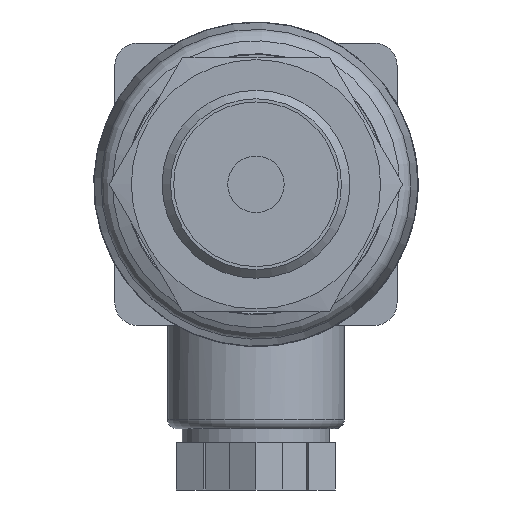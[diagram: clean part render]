
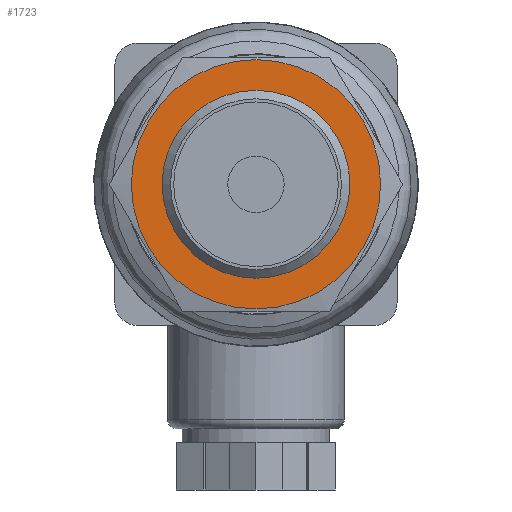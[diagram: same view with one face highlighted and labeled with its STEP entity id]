
A CAD part, left-side view. The second image highlights one B-rep face of the part: STEP entity #1723.
In plain terms, the highlighted planar face has unit normal (-1, 0, 0).
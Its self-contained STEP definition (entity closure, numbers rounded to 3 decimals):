
#362=FACE_BOUND('',#507,.T.);
#402=FACE_OUTER_BOUND('',#506,.T.);
#506=EDGE_LOOP('',(#1098));
#507=EDGE_LOOP('',(#1099));
#637=CIRCLE('',#1833,9.65);
#639=CIRCLE('',#1837,13.25);
#707=VERTEX_POINT('',#2514);
#709=VERTEX_POINT('',#2520);
#863=EDGE_CURVE('',#707,#707,#637,.T.);
#865=EDGE_CURVE('',#709,#709,#639,.T.);
#1098=ORIENTED_EDGE('',*,*,#865,.F.);
#1099=ORIENTED_EDGE('',*,*,#863,.F.);
#1558=PLANE('',#1836);
#1723=ADVANCED_FACE('',(#402,#362),#1558,.T.);
#1833=AXIS2_PLACEMENT_3D('',#2515,#2015,#2016);
#1836=AXIS2_PLACEMENT_3D('',#2519,#2021,#2022);
#1837=AXIS2_PLACEMENT_3D('',#2521,#2023,#2024);
#2015=DIRECTION('center_axis',(-1.,0.,0.));
#2016=DIRECTION('ref_axis',(0.,-1.,0.));
#2021=DIRECTION('center_axis',(-1.,0.,0.));
#2022=DIRECTION('ref_axis',(0.,0.,1.));
#2023=DIRECTION('center_axis',(1.,0.,0.));
#2024=DIRECTION('ref_axis',(0.,1.,0.));
#2514=CARTESIAN_POINT('',(-0.5,9.65,0.));
#2515=CARTESIAN_POINT('Origin',(-0.5,0.,0.));
#2519=CARTESIAN_POINT('Origin',(-0.5,11.05,0.));
#2520=CARTESIAN_POINT('',(-0.5,13.25,0.));
#2521=CARTESIAN_POINT('Origin',(-0.5,0.,0.));
